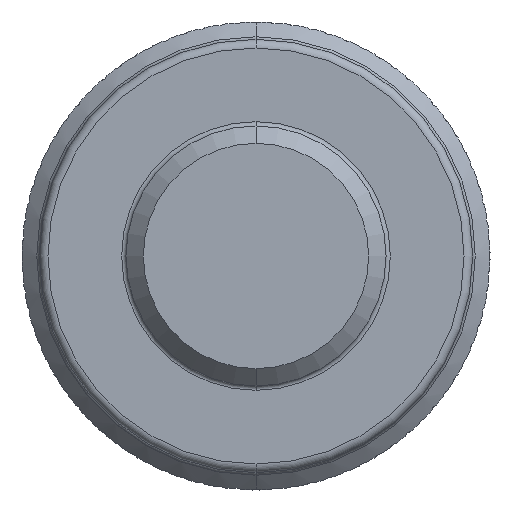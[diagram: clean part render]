
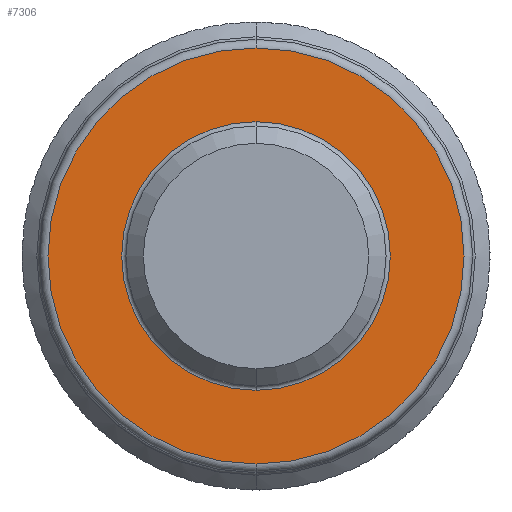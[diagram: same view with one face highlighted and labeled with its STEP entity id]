
A CAD part, front view. The second image highlights one B-rep face of the part: STEP entity #7306.
In plain terms, the highlighted planar face has unit normal (0, -1, 0).
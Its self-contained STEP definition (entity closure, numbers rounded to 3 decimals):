
#953 = DIRECTION ( 'NONE',  ( 0., 0., -1. ) ) ;
#954 = EDGE_CURVE ( 'NONE', #8981, #7406, #5459, .T. ) ;
#1061 = CIRCLE ( 'NONE', #3479, 2.4 ) ;
#1582 = CARTESIAN_POINT ( 'NONE',  ( 0., -3., 0. ) ) ;
#2158 = DIRECTION ( 'NONE',  ( 0., 0., -1. ) ) ;
#2647 = ORIENTED_EDGE ( 'NONE', *, *, #6306, .T. ) ;
#2693 = AXIS2_PLACEMENT_3D ( 'NONE', #9901, #4627, #2158 ) ;
#2804 = CARTESIAN_POINT ( 'NONE',  ( 0., -3., 0. ) ) ;
#2887 = CARTESIAN_POINT ( 'NONE',  ( 0., -3., -2.4 ) ) ;
#3266 = DIRECTION ( 'NONE',  ( 0., -1., 0. ) ) ;
#3479 = AXIS2_PLACEMENT_3D ( 'NONE', #7421, #4167, #4989 ) ;
#3519 = CARTESIAN_POINT ( 'NONE',  ( 0., -3., 1.55 ) ) ;
#3858 = CARTESIAN_POINT ( 'NONE',  ( 0., -3., 2.4 ) ) ;
#4167 = DIRECTION ( 'NONE',  ( 0., -1., 0. ) ) ;
#4540 = ORIENTED_EDGE ( 'NONE', *, *, #7563, .T. ) ;
#4553 = CARTESIAN_POINT ( 'NONE',  ( 0., -3., -1.55 ) ) ;
#4575 = FACE_BOUND ( 'NONE', #6585, .T. ) ;
#4627 = DIRECTION ( 'NONE',  ( 0., -1., 0. ) ) ;
#4989 = DIRECTION ( 'NONE',  ( 0., 0., -1. ) ) ;
#5239 = PLANE ( 'NONE',  #2693 ) ;
#5459 = CIRCLE ( 'NONE', #9665, 2.4 ) ;
#5860 = AXIS2_PLACEMENT_3D ( 'NONE', #1582, #9263, #7645 ) ;
#5892 = DIRECTION ( 'NONE',  ( 0., 0., -1. ) ) ;
#6220 = CARTESIAN_POINT ( 'NONE',  ( 0., -3., 0. ) ) ;
#6222 = ORIENTED_EDGE ( 'NONE', *, *, #8664, .T. ) ;
#6306 = EDGE_CURVE ( 'NONE', #7406, #8981, #1061, .T. ) ;
#6585 = EDGE_LOOP ( 'NONE', ( #6222, #4540 ) ) ;
#6738 = AXIS2_PLACEMENT_3D ( 'NONE', #2804, #9688, #5892 ) ;
#7243 = VERTEX_POINT ( 'NONE', #3519 ) ;
#7306 = ADVANCED_FACE ( 'NONE', ( #4575, #8472 ), #5239, .T. ) ;
#7326 = ORIENTED_EDGE ( 'NONE', *, *, #954, .T. ) ;
#7406 = VERTEX_POINT ( 'NONE', #3858 ) ;
#7421 = CARTESIAN_POINT ( 'NONE',  ( 0., -3., 0. ) ) ;
#7487 = EDGE_LOOP ( 'NONE', ( #7326, #2647 ) ) ;
#7563 = EDGE_CURVE ( 'NONE', #7243, #8731, #7693, .T. ) ;
#7645 = DIRECTION ( 'NONE',  ( 0., 0., -1. ) ) ;
#7693 = CIRCLE ( 'NONE', #6738, 1.55 ) ;
#8472 = FACE_OUTER_BOUND ( 'NONE', #7487, .T. ) ;
#8664 = EDGE_CURVE ( 'NONE', #8731, #7243, #8929, .T. ) ;
#8731 = VERTEX_POINT ( 'NONE', #4553 ) ;
#8929 = CIRCLE ( 'NONE', #5860, 1.55 ) ;
#8981 = VERTEX_POINT ( 'NONE', #2887 ) ;
#9263 = DIRECTION ( 'NONE',  ( 0., 1., 0. ) ) ;
#9665 = AXIS2_PLACEMENT_3D ( 'NONE', #6220, #3266, #953 ) ;
#9688 = DIRECTION ( 'NONE',  ( 0., 1., 0. ) ) ;
#9901 = CARTESIAN_POINT ( 'NONE',  ( 1.5, -3., 0. ) ) ;
